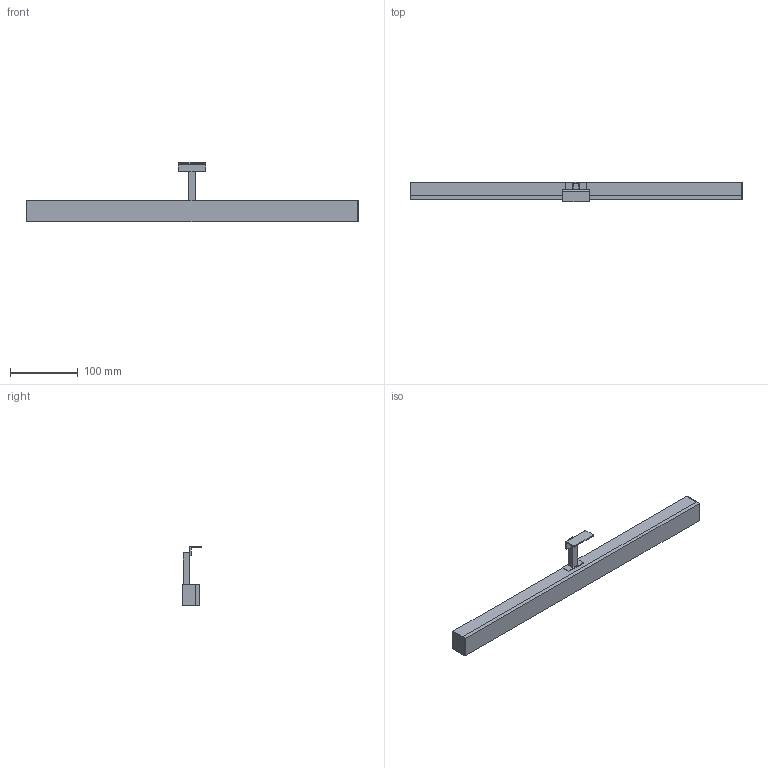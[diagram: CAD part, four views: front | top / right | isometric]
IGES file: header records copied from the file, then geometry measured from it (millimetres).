
Start section: SolidWorks IGES file using analytic representation for surfaces
Global section: file name: C:\Users\danielet\Desktop\3D CARLOS\DUSTIN-A356111-3D\DUSTIN-A356111-3D.IGS; native system: SolidWorks 2018; preprocessor: SolidWorks 2018; author: danielet; date: 220131.141956; units: millimetre
Bounding box: 490 x 29.5 x 88 mm (x, y, z)
Surface area: 96879.4 mm2 (no closed solid volume)
Topology: 0 solids, 0 shells, 52 faces, 300 edges, 300 vertices
Faces by surface type: bspline 46, revolution 6
